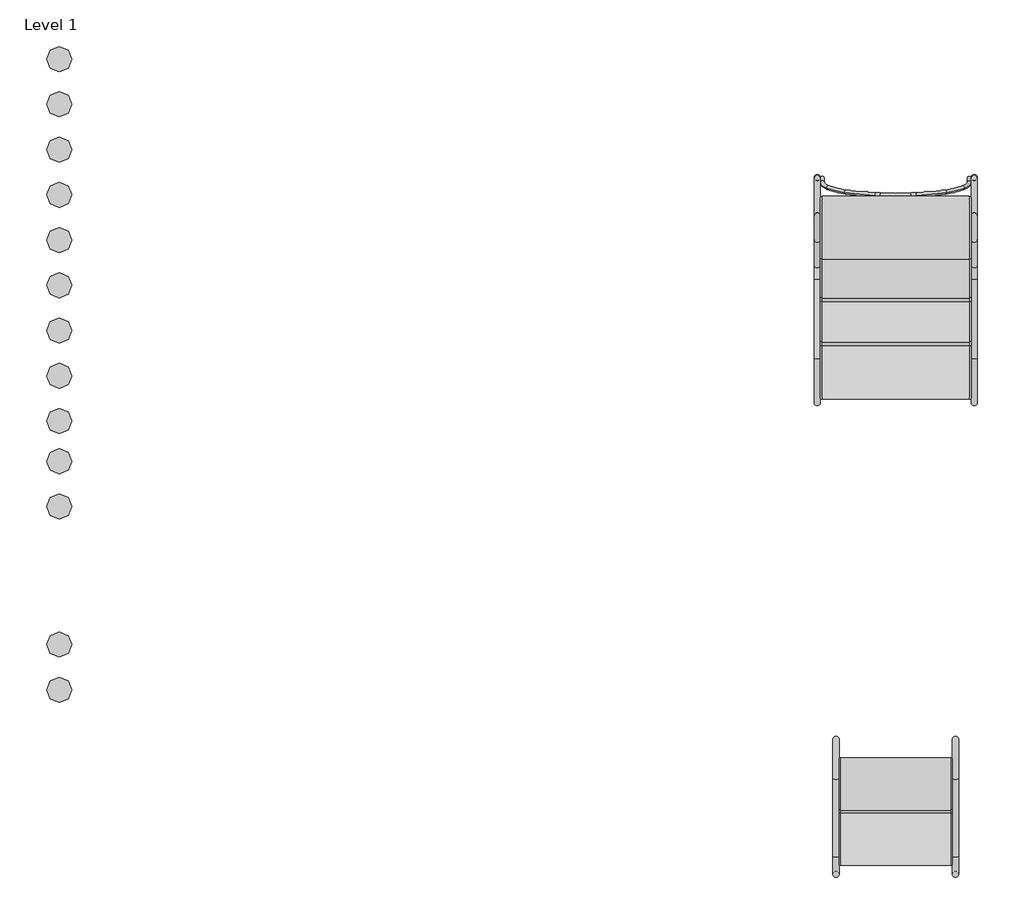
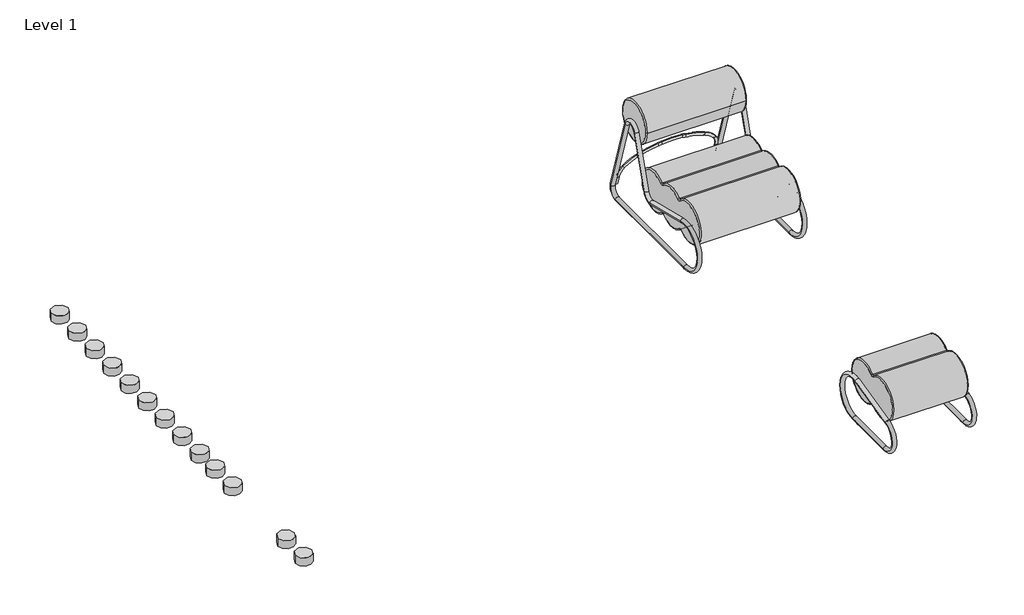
# One storey: 13 proxies, 2 furniture elements.
"""IFC4 building model written with IfcOpenShell, lengths in millimetres."""

from ifc_helpers import new_model, si_unit, origin, place, context, project, spatial, transform, mapped, element, save
from components import materialmodel_materialmodel_02e69005, furniture_6746b736, furniture_424a3cbe, furniture_c52432c8

model = new_model("IFC4")

# Units and contexts
model_context = context("Model", 3, world=origin())
ifc_project = project(units=[si_unit("LENGTHUNIT", "METRE", prefix="MILLI")], contexts=[model_context])

# Site, building, storey
site = spatial("IfcSite", under=ifc_project)
building = spatial("IfcBuilding", under=site)
storey = spatial("IfcBuildingStorey", under=building, Name="Level 1", Elevation=0.0)

# Proxies
placement = place(None, origin())
materialmodel_materialmodel_shape = materialmodel_materialmodel_02e69005(model_context)
element("IfcBuildingElementProxy", 1, Name="MaterialModel : MaterialModel", ObjectType="MaterialModel : MaterialModel", at=placement, inside=storey, context=model_context, shape_type="MappedRepresentation", body=[
    mapped(materialmodel_materialmodel_shape, transform((-5552.1657896, 4174.5048486, 0.0), x_axis=(1.0, 0.0, 0.0), y_axis=(0.0, 1.0, 0.0), z_axis=(0.0, 0.0, 1.0))),
])
element("IfcBuildingElementProxy", 2, Name="MaterialModel : MaterialModel", ObjectType="MaterialModel : MaterialModel", at=placement, inside=storey, context=model_context, shape_type="MappedRepresentation", body=[
    mapped(materialmodel_materialmodel_shape, transform((-5552.1657896, 3994.5048486, 0.0), x_axis=(1.0, 0.0, 0.0), y_axis=(0.0, 1.0, 0.0), z_axis=(0.0, 0.0, 1.0))),
])
element("IfcBuildingElementProxy", 3, Name="MaterialModel : MaterialModel", ObjectType="MaterialModel : MaterialModel", at=placement, inside=storey, context=model_context, shape_type="MappedRepresentation", body=[
    mapped(materialmodel_materialmodel_shape, transform((-5552.1657896, 3814.5048486, 0.0), x_axis=(1.0, 0.0, 0.0), y_axis=(0.0, 1.0, 0.0), z_axis=(0.0, 0.0, 1.0))),
])
element("IfcBuildingElementProxy", 4, Name="MaterialModel : MaterialModel", ObjectType="MaterialModel : MaterialModel", at=placement, inside=storey, context=model_context, shape_type="MappedRepresentation", body=[
    mapped(materialmodel_materialmodel_shape, transform((-5552.1657896, 3634.5048486, 0.0), x_axis=(1.0, 0.0, 0.0), y_axis=(0.0, 1.0, 0.0), z_axis=(0.0, 0.0, 1.0))),
])
element("IfcBuildingElementProxy", 5, Name="MaterialModel : MaterialModel", ObjectType="MaterialModel : MaterialModel", at=placement, inside=storey, context=model_context, shape_type="MappedRepresentation", body=[
    mapped(materialmodel_materialmodel_shape, transform((-5552.1657896, 3454.5048486, 0.0), x_axis=(1.0, 0.0, 0.0), y_axis=(0.0, 1.0, 0.0), z_axis=(0.0, 0.0, 1.0))),
])
element("IfcBuildingElementProxy", 6, Name="MaterialModel : MaterialModel", ObjectType="MaterialModel : MaterialModel", at=placement, inside=storey, context=model_context, shape_type="MappedRepresentation", body=[
    mapped(materialmodel_materialmodel_shape, transform((-5552.1657896, 3274.5048486, 0.0), x_axis=(1.0, 0.0, 0.0), y_axis=(0.0, 1.0, 0.0), z_axis=(0.0, 0.0, 1.0))),
])
element("IfcBuildingElementProxy", 7, Name="MaterialModel : MaterialModel", ObjectType="MaterialModel : MaterialModel", at=placement, inside=storey, context=model_context, shape_type="MappedRepresentation", body=[
    mapped(materialmodel_materialmodel_shape, transform((-5552.1657896, 3094.5048486, 0.0), x_axis=(1.0, 0.0, 0.0), y_axis=(0.0, 1.0, 0.0), z_axis=(0.0, 0.0, 1.0))),
])
element("IfcBuildingElementProxy", 8, Name="MaterialModel : MaterialModel", ObjectType="MaterialModel : MaterialModel", at=placement, inside=storey, context=model_context, shape_type="MappedRepresentation", body=[
    mapped(materialmodel_materialmodel_shape, transform((-5552.1657896, 2914.5048486, 0.0), x_axis=(1.0, 0.0, 0.0), y_axis=(0.0, 1.0, 0.0), z_axis=(0.0, 0.0, 1.0))),
])
element("IfcBuildingElementProxy", 9, Name="MaterialModel : MaterialModel", ObjectType="MaterialModel : MaterialModel", at=placement, inside=storey, context=model_context, shape_type="MappedRepresentation", body=[
    mapped(materialmodel_materialmodel_shape, transform((-5552.1657896, 2734.5048486, 0.0), x_axis=(1.0, 0.0, 0.0), y_axis=(0.0, 1.0, 0.0), z_axis=(0.0, 0.0, 1.0))),
])
element("IfcBuildingElementProxy", 10, Name="MaterialModel : MaterialModel", ObjectType="MaterialModel : MaterialModel", at=placement, inside=storey, context=model_context, shape_type="MappedRepresentation", body=[
    mapped(materialmodel_materialmodel_shape, transform((-5552.1657896, 2574.5048486, 0.0), x_axis=(1.0, 0.0, 0.0), y_axis=(0.0, 1.0, 0.0), z_axis=(0.0, 0.0, 1.0))),
])
element("IfcBuildingElementProxy", 11, Name="MaterialModel : MaterialModel", ObjectType="MaterialModel : MaterialModel", at=placement, inside=storey, context=model_context, shape_type="MappedRepresentation", body=[
    mapped(materialmodel_materialmodel_shape, transform((-5552.1657896, 2394.5048486, 0.0), x_axis=(1.0, 0.0, 0.0), y_axis=(0.0, 1.0, 0.0), z_axis=(0.0, 0.0, 1.0))),
])
element("IfcBuildingElementProxy", 12, Name="MaterialModel : MaterialModel", ObjectType="MaterialModel : MaterialModel", at=placement, inside=storey, context=model_context, shape_type="MappedRepresentation", body=[
    mapped(materialmodel_materialmodel_shape, transform((-5552.1657896, 1845.2505234, 0.0), x_axis=(1.0, 0.0, 0.0), y_axis=(0.0, 1.0, 0.0), z_axis=(0.0, 0.0, 1.0))),
])
element("IfcBuildingElementProxy", 13, Name="MaterialModel : MaterialModel", ObjectType="MaterialModel : MaterialModel", at=placement, inside=storey, context=model_context, shape_type="MappedRepresentation", body=[
    mapped(materialmodel_materialmodel_shape, transform((-5552.1657896, 1665.2505234, 0.0), x_axis=(1.0, 0.0, 0.0), y_axis=(0.0, 1.0, 0.0), z_axis=(0.0, 0.0, 1.0))),
])

# Furniture
furniture_shape = furniture_6746b736(model_context)
element("IfcFurniture", 14, ObjectType="Norr11 - Fave Ottoman : Norr11 - Fave Ottoman", at=placement, inside=storey, context=model_context, shape_type="MappedRepresentation", body=[
    mapped(furniture_shape, transform((-2225.5013961, 1179.1420342, 0.0), x_axis=(1.0, 0.0, 0.0), y_axis=(0.0, 1.0, 0.0), z_axis=(0.0, 0.0, 1.0))),
])
furniture_2_shape = furniture_424a3cbe(model_context)
furniture_3_shape = furniture_c52432c8(model_context)
element("IfcFurniture", 15, ObjectType="Norr11 - Fave Chair : Norr11 - Fave Chair", at=placement, inside=storey, context=model_context, shape_type="MappedRepresentation", body=[
    mapped(furniture_2_shape, transform((-2225.5013961, 3295.4499354, 0.0), x_axis=(1.0, 0.0, 0.0), y_axis=(0.0, 1.0, 0.0), z_axis=(0.0, 0.0, 1.0))),
    mapped(furniture_3_shape, transform((-2225.5013961, 3295.4499354, 0.0), x_axis=(1.0, 0.0, 0.0), y_axis=(0.0, 1.0, 0.0), z_axis=(0.0, 0.0, 1.0))),
])

save(model, "model.ifc")
